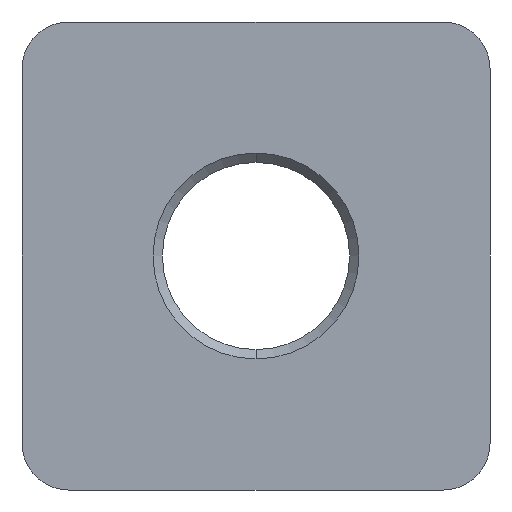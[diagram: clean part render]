
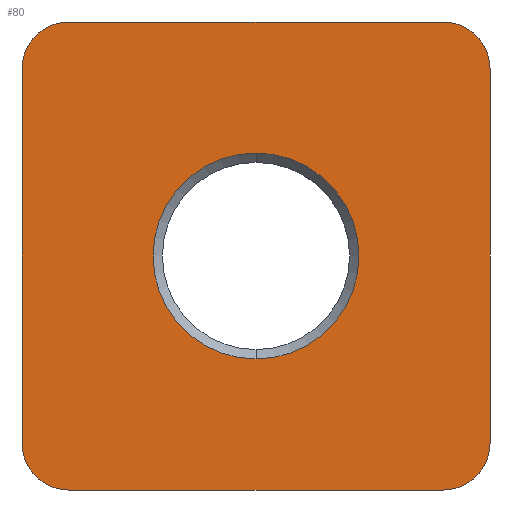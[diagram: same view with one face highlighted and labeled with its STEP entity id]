
A CAD part, front view. The second image highlights one B-rep face of the part: STEP entity #80.
In plain terms, the highlighted planar face has unit normal (0, -1, 0).
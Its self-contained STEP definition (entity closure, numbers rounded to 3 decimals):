
#8 = VERTEX_POINT ( 'NONE', #387 ) ;
#60 = VERTEX_POINT ( 'NONE', #453 ) ;
#72 = VERTEX_POINT ( 'NONE', #440 ) ;
#79 = EDGE_CURVE ( 'NONE', #132, #1137, #494, .T. ) ;
#80 = ADVANCED_FACE ( 'NONE', ( #490, #489 ), #488, .F. ) ;
#81 = ORIENTED_EDGE ( 'NONE', *, *, #179, .T. ) ;
#82 = ORIENTED_EDGE ( 'NONE', *, *, #83, .T. ) ;
#83 = EDGE_CURVE ( 'NONE', #177, #222, #485, .T. ) ;
#84 = EDGE_LOOP ( 'NONE', ( #85, #86, #87, #88, #101, #102, #103, #100 ) ) ;
#85 = ORIENTED_EDGE ( 'NONE', *, *, #341, .F. ) ;
#86 = ORIENTED_EDGE ( 'NONE', *, *, #79, .F. ) ;
#87 = ORIENTED_EDGE ( 'NONE', *, *, #113, .F. ) ;
#88 = ORIENTED_EDGE ( 'NONE', *, *, #126, .F. ) ;
#92 = EDGE_CURVE ( 'NONE', #60, #175, #472, .T. ) ;
#100 = ORIENTED_EDGE ( 'NONE', *, *, #351, .F. ) ;
#101 = ORIENTED_EDGE ( 'NONE', *, *, #109, .F. ) ;
#102 = ORIENTED_EDGE ( 'NONE', *, *, #92, .F. ) ;
#103 = ORIENTED_EDGE ( 'NONE', *, *, #172, .F. ) ;
#107 = VERTEX_POINT ( 'NONE', #515 ) ;
#109 = EDGE_CURVE ( 'NONE', #175, #72, #514, .T. ) ;
#113 = EDGE_CURVE ( 'NONE', #107, #132, #501, .T. ) ;
#121 = EDGE_LOOP ( 'NONE', ( #81, #82 ) ) ;
#126 = EDGE_CURVE ( 'NONE', #72, #107, #547, .T. ) ;
#132 = VERTEX_POINT ( 'NONE', #532 ) ;
#172 = EDGE_CURVE ( 'NONE', #346, #60, #650, .T. ) ;
#175 = VERTEX_POINT ( 'NONE', #640 ) ;
#177 = VERTEX_POINT ( 'NONE', #635 ) ;
#179 = EDGE_CURVE ( 'NONE', #222, #177, #634, .T. ) ;
#222 = VERTEX_POINT ( 'NONE', #732 ) ;
#341 = EDGE_CURVE ( 'NONE', #1137, #8, #918, .T. ) ;
#346 = VERTEX_POINT ( 'NONE', #902 ) ;
#351 = EDGE_CURVE ( 'NONE', #8, #346, #962, .T. ) ;
#387 = CARTESIAN_POINT ( 'NONE',  ( -15., 0., -12. ) ) ;
#440 = CARTESIAN_POINT ( 'NONE',  ( 15., 0., 12. ) ) ;
#453 = CARTESIAN_POINT ( 'NONE',  ( -12., 0., 15. ) ) ;
#469 = DIRECTION ( 'NONE',  ( 1., 0., 0. ) ) ;
#470 = VECTOR ( 'NONE', #469, 1000. ) ;
#471 = CARTESIAN_POINT ( 'NONE',  ( -12., 0., 15. ) ) ;
#472 = LINE ( 'NONE', #471, #470 ) ;
#479 = DIRECTION ( 'NONE',  ( 0., 0., 1. ) ) ;
#480 = DIRECTION ( 'NONE',  ( 0., 1., 0. ) ) ;
#481 = CARTESIAN_POINT ( 'NONE',  ( 0., 0., 0. ) ) ;
#482 = AXIS2_PLACEMENT_3D ( 'NONE', #481, #480, #479 ) ;
#483 = DIRECTION ( 'NONE',  ( 0., 0., 1. ) ) ;
#484 = DIRECTION ( 'NONE',  ( 0., 1., 0. ) ) ;
#485 = CIRCLE ( 'NONE', #482, 6.6 ) ;
#486 = CARTESIAN_POINT ( 'NONE',  ( -12., 0., -12. ) ) ;
#487 = AXIS2_PLACEMENT_3D ( 'NONE', #486, #484, #483 ) ;
#488 = PLANE ( 'NONE',  #487 ) ;
#489 = FACE_OUTER_BOUND ( 'NONE', #84, .T. ) ;
#490 = FACE_BOUND ( 'NONE', #121, .T. ) ;
#491 = DIRECTION ( 'NONE',  ( -1., 0., 0. ) ) ;
#492 = VECTOR ( 'NONE', #491, 1000. ) ;
#493 = CARTESIAN_POINT ( 'NONE',  ( -12., 0., -15. ) ) ;
#494 = LINE ( 'NONE', #493, #492 ) ;
#498 = DIRECTION ( 'NONE',  ( 0., 0., -1. ) ) ;
#499 = DIRECTION ( 'NONE',  ( 0., 1., 0. ) ) ;
#500 = AXIS2_PLACEMENT_3D ( 'NONE', #506, #499, #498 ) ;
#501 = CIRCLE ( 'NONE', #500, 3. ) ;
#506 = CARTESIAN_POINT ( 'NONE',  ( 12., 0., -12. ) ) ;
#510 = DIRECTION ( 'NONE',  ( 0., 0., 1. ) ) ;
#511 = DIRECTION ( 'NONE',  ( 0., 1., 0. ) ) ;
#512 = CARTESIAN_POINT ( 'NONE',  ( 12., 0., 12. ) ) ;
#513 = AXIS2_PLACEMENT_3D ( 'NONE', #512, #511, #510 ) ;
#514 = CIRCLE ( 'NONE', #513, 3. ) ;
#515 = CARTESIAN_POINT ( 'NONE',  ( 15., 0., -12. ) ) ;
#532 = CARTESIAN_POINT ( 'NONE',  ( 12., 0., -15. ) ) ;
#544 = DIRECTION ( 'NONE',  ( 0., 0., -1. ) ) ;
#545 = VECTOR ( 'NONE', #544, 1000. ) ;
#546 = CARTESIAN_POINT ( 'NONE',  ( 15., 0., 12. ) ) ;
#547 = LINE ( 'NONE', #546, #545 ) ;
#630 = DIRECTION ( 'NONE',  ( 0., 0., 1. ) ) ;
#631 = DIRECTION ( 'NONE',  ( 0., 1., 0. ) ) ;
#632 = CARTESIAN_POINT ( 'NONE',  ( 0., 0., 0. ) ) ;
#633 = AXIS2_PLACEMENT_3D ( 'NONE', #632, #631, #630 ) ;
#634 = CIRCLE ( 'NONE', #633, 6.6 ) ;
#635 = CARTESIAN_POINT ( 'NONE',  ( 0., 0., 6.6 ) ) ;
#640 = CARTESIAN_POINT ( 'NONE',  ( 12., 0., 15. ) ) ;
#646 = DIRECTION ( 'NONE',  ( 0., 0., -1. ) ) ;
#647 = DIRECTION ( 'NONE',  ( 0., 1., 0. ) ) ;
#648 = CARTESIAN_POINT ( 'NONE',  ( -12., 0., 12. ) ) ;
#649 = AXIS2_PLACEMENT_3D ( 'NONE', #648, #647, #646 ) ;
#650 = CIRCLE ( 'NONE', #649, 3. ) ;
#732 = CARTESIAN_POINT ( 'NONE',  ( 0., 0., -6.6 ) ) ;
#902 = CARTESIAN_POINT ( 'NONE',  ( -15., 0., 12. ) ) ;
#914 = DIRECTION ( 'NONE',  ( 0., 0., 1. ) ) ;
#915 = DIRECTION ( 'NONE',  ( 0., 1., 0. ) ) ;
#916 = CARTESIAN_POINT ( 'NONE',  ( -12., 0., -12. ) ) ;
#917 = AXIS2_PLACEMENT_3D ( 'NONE', #916, #915, #914 ) ;
#918 = CIRCLE ( 'NONE', #917, 3. ) ;
#959 = DIRECTION ( 'NONE',  ( 0., 0., 1. ) ) ;
#960 = VECTOR ( 'NONE', #959, 1000. ) ;
#961 = CARTESIAN_POINT ( 'NONE',  ( -15., 0., 12. ) ) ;
#962 = LINE ( 'NONE', #961, #960 ) ;
#1026 = CARTESIAN_POINT ( 'NONE',  ( -12., 0., -15. ) ) ;
#1137 = VERTEX_POINT ( 'NONE', #1026 ) ;
